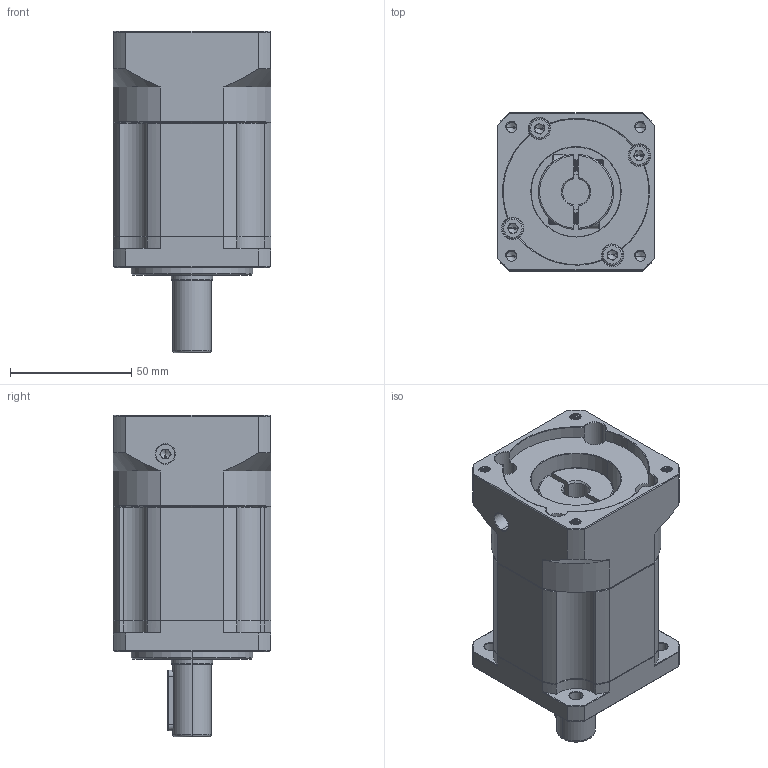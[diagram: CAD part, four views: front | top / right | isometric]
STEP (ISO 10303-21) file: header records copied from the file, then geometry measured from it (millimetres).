
FILE_DESCRIPTION (( 'STEP AP214' ), '1' );
FILE_NAME ('ZB60-D16-L2-11-60-75-M5.STEP', '2022-04-17T07:35:49', ( '' ), ( 'Microsoft' ), 'SwSTEP 2.0', 'SolidWorks 2016', '' );
FILE_SCHEMA (( 'AUTOMOTIVE_DESIGN' ));
Length unit declared in the file: millimetre
Products named in the file (1): ZB60-D16-L2-11-60-75-M5
Bounding box: 65 x 65 x 132.5 mm (x, y, z)
Volume: 327247.6 mm3; surface area: 58694.9 mm2
Topology: 6 solids, 6 shells, 1894 faces, 5036 edges, 3221 vertices
Faces by surface type: plane 879, cylinder 396, bspline 299, cone 286, torus 34
Entity records: 102165 total; most frequent: CARTESIAN_POINT 36670, ORIENTED_EDGE 10012, DIRECTION 8203, EDGE_CURVE 5006, VERTEX_POINT 3221, LINE 3039, VECTOR 3039, AXIS2_PLACEMENT_3D 2582
